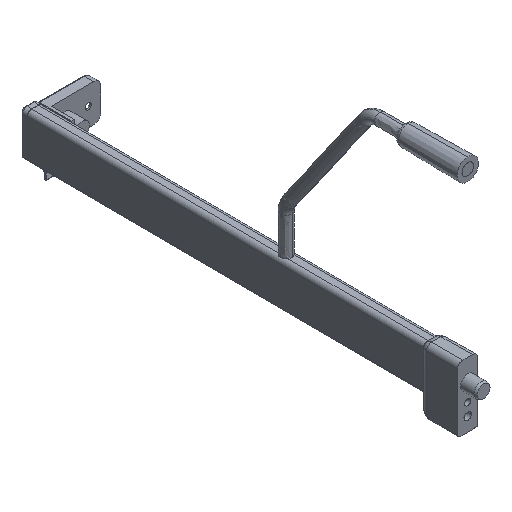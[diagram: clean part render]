
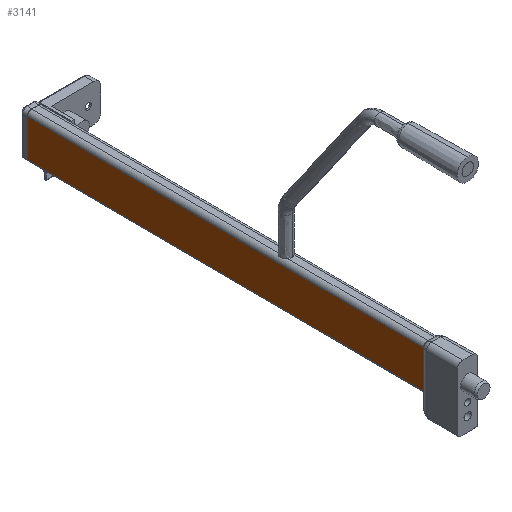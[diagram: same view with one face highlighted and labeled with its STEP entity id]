
A CAD part, isometric view. The second image highlights one B-rep face of the part: STEP entity #3141.
In plain terms, the highlighted planar face has unit normal (-1, 0, 0).
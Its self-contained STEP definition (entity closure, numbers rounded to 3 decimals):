
#516 = CARTESIAN_POINT ( 'NONE',  ( -5.25, 25., -15.5 ) ) ;
#944 = EDGE_LOOP ( 'NONE', ( #5142, #5144, #5145, #5147 ) ) ;
#1506 = VERTEX_POINT ( 'NONE', #516 ) ;
#1588 = VERTEX_POINT ( 'NONE', #5384 ) ;
#1598 = VERTEX_POINT ( 'NONE', #5394 ) ;
#1723 = EDGE_CURVE ( 'NONE', #2714, #1506, #4685, .T. ) ;
#1724 = EDGE_CURVE ( 'NONE', #1598, #1588, #4687, .T. ) ;
#1727 = EDGE_CURVE ( 'NONE', #1598, #2714, #4691, .T. ) ;
#1739 = EDGE_CURVE ( 'NONE', #1588, #1506, #4709, .T. ) ;
#1863 = AXIS2_PLACEMENT_3D ( 'NONE', #3283, #3284, #3285 ) ;
#2714 = VERTEX_POINT ( 'NONE', #4111 ) ;
#3141 = ADVANCED_FACE ( 'NONE', ( #4795 ), #3282, .F. ) ;
#3282 = PLANE ( 'NONE',  #1863 ) ;
#3283 = CARTESIAN_POINT ( 'NONE',  ( -5.25, 334.27, -13.592 ) ) ;
#3284 = DIRECTION ( 'NONE',  ( 1., 0., 0. ) ) ;
#3285 = DIRECTION ( 'NONE',  ( 0., 0., -1. ) ) ;
#3559 = CARTESIAN_POINT ( 'NONE',  ( -5.25, 25., 15. ) ) ;
#3560 = DIRECTION ( 'NONE',  ( 0., 0., -1. ) ) ;
#3561 = CARTESIAN_POINT ( 'NONE',  ( -5.25, 300.4, -13.592 ) ) ;
#3562 = DIRECTION ( 'NONE',  ( 0., 0., -1. ) ) ;
#3569 = CARTESIAN_POINT ( 'NONE',  ( -5.25, 334.11, 12.407 ) ) ;
#3570 = DIRECTION ( 'NONE',  ( 0., -1., -0.006 ) ) ;
#3599 = CARTESIAN_POINT ( 'NONE',  ( -5.25, 334.27, -13.592 ) ) ;
#3600 = DIRECTION ( 'NONE',  ( 0., -1., -0.006 ) ) ;
#4111 = CARTESIAN_POINT ( 'NONE',  ( -5.25, 25., 10.501 ) ) ;
#4685 = LINE ( 'NONE', #3559, #4686 ) ;
#4686 = VECTOR ( 'NONE', #3560, 1000. ) ;
#4687 = LINE ( 'NONE', #3561, #4688 ) ;
#4688 = VECTOR ( 'NONE', #3562, 1000. ) ;
#4691 = LINE ( 'NONE', #3569, #4692 ) ;
#4692 = VECTOR ( 'NONE', #3570, 1000. ) ;
#4709 = LINE ( 'NONE', #3599, #4710 ) ;
#4710 = VECTOR ( 'NONE', #3600, 1000. ) ;
#4795 = FACE_OUTER_BOUND ( 'NONE', #944, .T. ) ;
#5142 = ORIENTED_EDGE ( 'NONE', *, *, #1724, .T. ) ;
#5144 = ORIENTED_EDGE ( 'NONE', *, *, #1739, .T. ) ;
#5145 = ORIENTED_EDGE ( 'NONE', *, *, #1723, .F. ) ;
#5147 = ORIENTED_EDGE ( 'NONE', *, *, #1727, .F. ) ;
#5384 = CARTESIAN_POINT ( 'NONE',  ( -5.25, 300.4, -13.801 ) ) ;
#5394 = CARTESIAN_POINT ( 'NONE',  ( -5.25, 300.4, 12.199 ) ) ;
